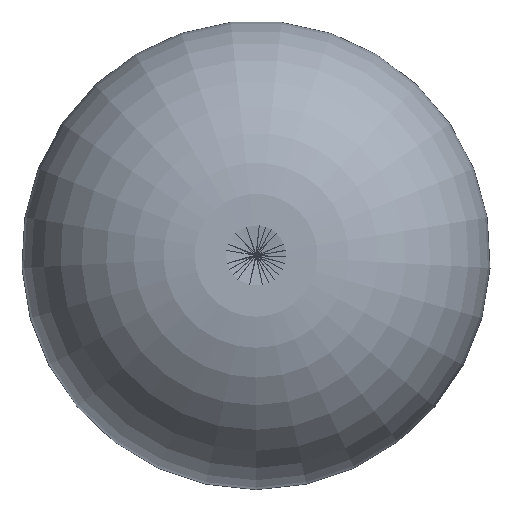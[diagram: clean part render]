
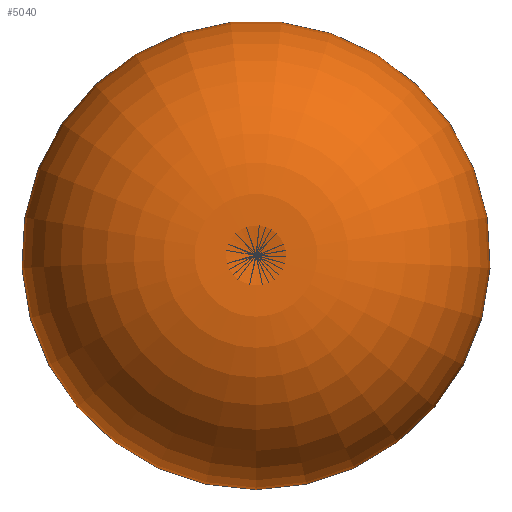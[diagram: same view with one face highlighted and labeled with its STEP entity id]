
A CAD part, front view. The second image highlights one B-rep face of the part: STEP entity #5040.
In plain terms, the highlighted toroidal (fillet/blend) face has major radius 89.489 mm and minor radius 383.355 mm.
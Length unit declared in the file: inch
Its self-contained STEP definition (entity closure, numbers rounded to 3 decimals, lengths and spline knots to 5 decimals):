
#200=DEGENERATE_TOROIDAL_SURFACE('',#2161,3.5232,15.0927,
 .F.);
#904=VERTEX_POINT('',#10311);
#906=VERTEX_POINT('',#10352);
#1254=DIRECTION('',(0.,-1.,0.));
#1255=DIRECTION('',(0.,0.,-0.632));
#1256=DIRECTION('',(0.,1.,0.));
#1257=DIRECTION('',(0.,0.,2.387));
#1258=DIRECTION('',(0.,1.,0.));
#2159=AXIS2_PLACEMENT_3D('',#10310,#1254,#1255);
#2160=AXIS2_PLACEMENT_3D('',#10351,#1256,#1257);
#2161=AXIS2_PLACEMENT_3D('',#10353,#1258,$);
#2562=CIRCLE('',#2159,0.63244);
#2563=CIRCLE('',#2160,2.38725);
#2807=EDGE_CURVE('',#904,#904,#2562,.T.);
#2809=EDGE_CURVE('',#906,#906,#2563,.T.);
#3439=ORIENTED_EDGE('',*,*,#2807,.T.);
#3440=ORIENTED_EDGE('',*,*,#2809,.T.);
#4525=EDGE_LOOP('',(#3439));
#4526=EDGE_LOOP('',(#3440));
#4786=FACE_BOUND('',#4525,.T.);
#4787=FACE_BOUND('',#4526,.T.);
#5040=ADVANCED_FACE('',(#4786,#4787),#200,.T.);
#10310=CARTESIAN_POINT('',(3.95491,1.75,-3.86095));
#10311=CARTESIAN_POINT('',(3.95491,1.75,-3.22851));
#10351=CARTESIAN_POINT('',(3.95491,1.12795,-3.86095));
#10352=CARTESIAN_POINT('',(3.95491,1.12795,-1.4737));
#10353=CARTESIAN_POINT('',(3.95491,-12.75932,-3.86095));
